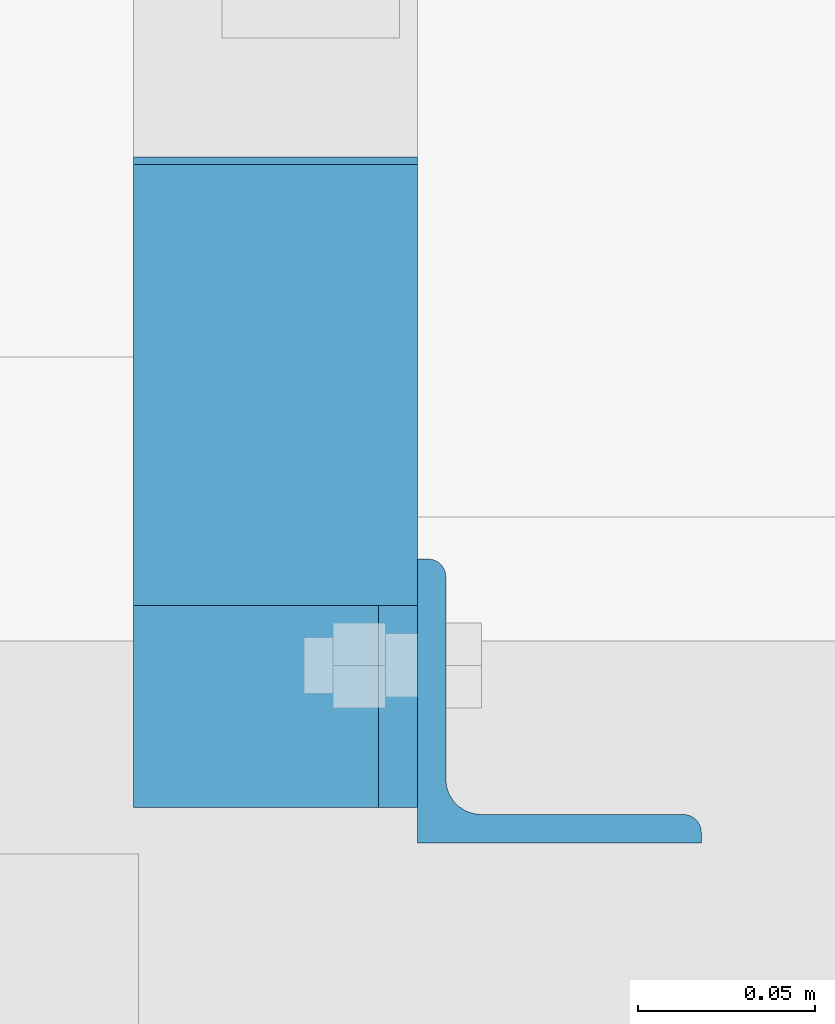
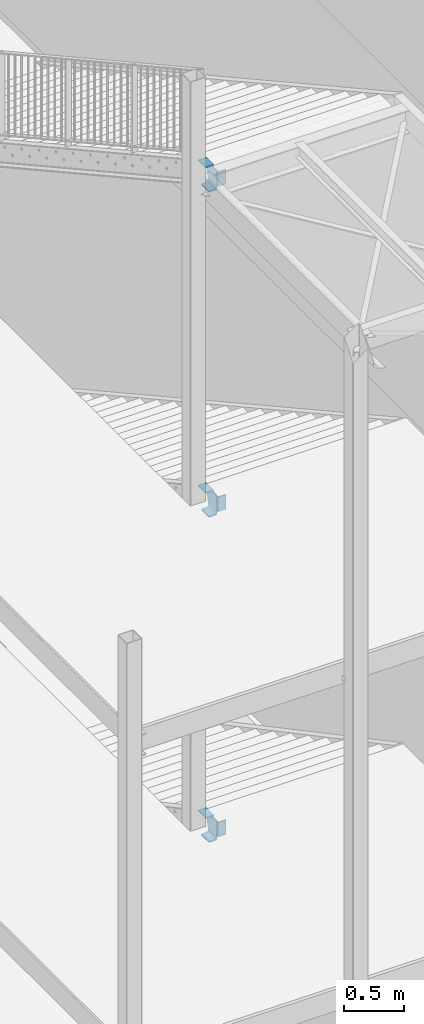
# One storey, part 38 of 78: 6 beams, 6 elements without a shape of their own.
"""IFC2X3 building model written with IfcOpenShell, lengths in millimetres."""

from ifc_helpers import new_model, si_unit, frame, origin_with_axes, origin_2d_with_axis, place, context, subcontext, project, spatial, polyline, l_section, u_section, outline, extrude, boolean, halfspace, material, type_object, element, aggregate, save


model = new_model("IFC2X3")

# Units and contexts
model_context = context("Model", 3, precision=1e-05, world=origin_with_axes())
body_context = subcontext(model_context, "Body", "Model", "MODEL_VIEW")
ifc_project = project(units=[si_unit("LENGTHUNIT", "METRE", prefix="MILLI"), si_unit("AREAUNIT", "SQUARE_METRE"), si_unit("VOLUMEUNIT", "CUBIC_METRE"), si_unit("MASSUNIT", "GRAM", prefix="KILO"), si_unit("TIMEUNIT", "SECOND"), si_unit("PLANEANGLEUNIT", "RADIAN"), si_unit("SOLIDANGLEUNIT", "STERADIAN"), si_unit("THERMODYNAMICTEMPERATUREUNIT", "DEGREE_CELSIUS"), si_unit("LUMINOUSINTENSITYUNIT", "LUMEN")], contexts=[model_context])

# Site, building, storey
site_placement = place(None, origin_with_axes())
site = spatial("IfcSite", under=ifc_project, at=site_placement, Name="Site", CompositionType="ELEMENT")
building_placement = place(site_placement, origin_with_axes())
building = spatial("IfcBuilding", under=site, at=building_placement, Name="Undefined", CompositionType="ELEMENT")
storey_placement = place(building_placement, origin_with_axes())
storey = spatial("IfcBuildingStorey", under=building, at=storey_placement, Name="Undefined", CompositionType="ELEMENT", Elevation=0.0)

# Assembly, beam
assembly_1_placement = place(storey_placement, origin_with_axes())
assembly_1 = element("IfcElementAssembly", 1, at=assembly_1_placement, inside=storey, AssemblyPlace="NOTDEFINED", PredefinedType="RIGID_FRAME")
ifc_material = material(Name="STEEL/S235JR")
beam_type_1 = type_object("IfcBeamType", Name="UPN220", PredefinedType="NOTDEFINED")
beam_1_placement = place(assembly_1_placement, frame((-33022.8600000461, 4102.28571431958, 156560.040000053), z_axis=(0.0, 0.0, 1.0), x_axis=(0.0, -1.0, 0.0)))
beam_1 = element("IfcBeam", 2, at=beam_1_placement, type_object=beam_type_1, material=ifc_material, Name="LIMON", ObjectType="UPN220", context=body_context, shape_type="CSG", body=[
    boolean("DIFFERENCE", boolean("DIFFERENCE", boolean("DIFFERENCE", extrude(u_section(Depth=220.0, FlangeWidth=80.0, WebThickness=9.0, FlangeThickness=12.5, FilletRadius=12.5, EdgeRadius=6.5, FlangeSlope=0.0798299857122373, at=origin_2d_with_axis()), frame((209.842037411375, 0.0, 0.0), z_axis=(-1.0, 0.0, 0.0), x_axis=(0.0, -1.0, 0.0)), (0.0, 0.0, 1.0), 210.13), extrude(outline(polyline([(0.0, 0.0), (66.9000000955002, 0.0), (66.9000000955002, 29.80000029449), (0.0, 29.80000029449), (0.0, 0.0)])), frame((191.185714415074, -49.9999999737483, 90.199999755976), z_axis=(0.0, 1.0, 0.0), x_axis=(-1.0, 0.0, 0.0)), (0.0, 0.0, 1.0), 100.0)), halfspace(frame((181.185714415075, 2.62516550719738e-08, 210.000000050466), z_axis=(1.0, 0.0, 0.0), x_axis=(0.0, 1.0, 0.0)), False)), halfspace(frame((-1.64160519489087e-06, -39.9999999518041, 109.99999989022), z_axis=(-0.968308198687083, 0.0, -0.249758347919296), x_axis=(0.0, -1.0, 0.0)), False)),
])
aggregate(assembly_1, [beam_1])

assembly_2_placement = place(storey_placement, origin_with_axes())
assembly_2 = element("IfcElementAssembly", 3, at=assembly_2_placement, inside=storey, AssemblyPlace="NOTDEFINED", PredefinedType="RIGID_FRAME")
beam_2_placement = place(assembly_2_placement, frame((-33022.8599999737, 4102.28571431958, 159860.040000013), z_axis=(0.0, 0.0, 1.0), x_axis=(0.0, -1.0, 0.0)))
beam_2 = element("IfcBeam", 4, at=beam_2_placement, type_object=beam_type_1, material=ifc_material, Name="LIMON", ObjectType="UPN220", context=body_context, shape_type="CSG", body=[
    boolean("DIFFERENCE", boolean("DIFFERENCE", boolean("DIFFERENCE", extrude(u_section(Depth=220.0, FlangeWidth=80.0, WebThickness=9.0, FlangeThickness=12.5, FilletRadius=12.5, EdgeRadius=6.5, FlangeSlope=0.0798299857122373, at=origin_2d_with_axis()), frame((209.842037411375, 0.0, 0.0), z_axis=(-1.0, 0.0, 0.0), x_axis=(0.0, -1.0, 0.0)), (0.0, 0.0, 1.0), 210.13), extrude(outline(polyline([(0.0, 0.0), (66.9000000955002, 0.0), (66.9000000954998, 29.800763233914), (0.0, 29.800763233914), (0.0, 0.0)])), frame((191.185714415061, -50.0000000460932, 90.1992368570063), z_axis=(0.0, 1.0, 0.0), x_axis=(-1.0, 0.0, 0.0)), (0.0, 0.0, 1.0), 100.0)), halfspace(frame((181.185714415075, 2.62516550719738e-08, 210.000000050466), z_axis=(1.0, 0.0, 0.0), x_axis=(0.0, 1.0, 0.0)), False)), halfspace(frame((-1.64160519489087e-06, -39.9999999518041, 109.99999989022), z_axis=(-0.968308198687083, 0.0, -0.249758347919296), x_axis=(0.0, -1.0, 0.0)), False)),
])
aggregate(assembly_2, [beam_2])

assembly_3_placement = place(storey_placement, origin_with_axes())
assembly_3 = element("IfcElementAssembly", 5, at=assembly_3_placement, inside=storey, AssemblyPlace="NOTDEFINED", PredefinedType="RIGID_FRAME")
beam_3_placement = place(assembly_3_placement, frame((-33022.8599999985, 4104.35782725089, 153260.040106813), z_axis=(0.0, 0.0, 1.0), x_axis=(0.0, -1.0, 0.0)))
beam_3 = element("IfcBeam", 6, at=beam_3_placement, type_object=beam_type_1, material=ifc_material, Name="LIMON", ObjectType="UPN220", context=body_context, shape_type="CSG", body=[
    boolean("DIFFERENCE", boolean("DIFFERENCE", boolean("DIFFERENCE", extrude(u_section(Depth=220.0, FlangeWidth=80.0, WebThickness=9.0, FlangeThickness=12.5, FilletRadius=12.5, EdgeRadius=6.5, FlangeSlope=0.0798299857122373, at=origin_2d_with_axis()), frame((210.985923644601, 0.0, 0.0), z_axis=(-1.0, 0.0, 0.0), x_axis=(0.0, -1.0, 0.0)), (0.0, 0.0, 1.0), 211.26), extrude(outline(polyline([(0.0, 0.0), (66.9000000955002, 0.0), (66.9000000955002, 29.8001073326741), (0.0, 29.8001074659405), (0.0, 0.0)])), frame((193.257827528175, -50.0000000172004, 90.1998925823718), z_axis=(0.0, 1.0, 0.0), x_axis=(-1.0, 0.0, 0.0)), (0.0, 0.0, 1.0), 100.0)), halfspace(frame((183.25782776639, -1.72003637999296e-08, 209.999999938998), z_axis=(1.0, 0.0, 0.0), x_axis=(0.0, 1.0, 0.0)), False)), halfspace(frame((-1.64160519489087e-06, -39.9999999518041, 109.99999989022), z_axis=(-0.97023880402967, 0.0, -0.242150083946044), x_axis=(0.0, -1.0, 0.0)), False)),
])
aggregate(assembly_3, [beam_3])

assembly_4_placement = place(storey_placement, origin_with_axes())
assembly_4 = element("IfcElementAssembly", 7, at=assembly_4_placement, inside=storey, AssemblyPlace="NOTDEFINED", PredefinedType="RIGID_FRAME")
beam_type_2 = type_object("IfcBeamType", Name="L80*8", PredefinedType="NOTDEFINED")
beam_4_placement = place(assembly_4_placement, frame((-32942.8600000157, 3951.0999986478, 153335.040107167), z_axis=(0.0, 1.0, 0.0), x_axis=(0.0, 0.0, -1.0)))
beam_4 = element("IfcBeam", 8, at=beam_4_placement, type_object=beam_type_2, material=ifc_material, Name="CORNIERE", ObjectType="L80*8", context=body_context, shape_type="SweptSolid", body=[
    extrude(l_section(Depth=80.0, Width=80.0, Thickness=8.0, FilletRadius=10.0, EdgeRadius=5.0, at=origin_2d_with_axis()), frame((150.0, 0.0, 0.0), z_axis=(-1.0, 0.0, 0.0), x_axis=(0.0, -1.0, 0.0)), (0.0, 0.0, 1.0), 150.0),
])
aggregate(assembly_4, [beam_4])

assembly_5_placement = place(storey_placement, origin_with_axes())
assembly_5 = element("IfcElementAssembly", 9, at=assembly_5_placement, inside=storey, AssemblyPlace="NOTDEFINED", PredefinedType="RIGID_FRAME")
beam_5_placement = place(assembly_5_placement, frame((-32942.8600000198, 3951.0999999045, 156635.040000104), z_axis=(0.0, 1.0, 0.0), x_axis=(0.0, 0.0, -1.0)))
beam_5 = element("IfcBeam", 10, at=beam_5_placement, type_object=beam_type_2, material=ifc_material, Name="CORNIERE", ObjectType="L80*8", context=body_context, shape_type="SweptSolid", body=[
    extrude(l_section(Depth=80.0, Width=80.0, Thickness=8.0, FilletRadius=10.0, EdgeRadius=5.0, at=origin_2d_with_axis()), frame((150.0, 0.0, 0.0), z_axis=(-1.0, 0.0, 0.0), x_axis=(0.0, -1.0, 0.0)), (0.0, 0.0, 1.0), 150.0),
])
aggregate(assembly_5, [beam_5])

assembly_6_placement = place(storey_placement, origin_with_axes())
assembly_6 = element("IfcElementAssembly", 11, at=assembly_6_placement, inside=storey, AssemblyPlace="NOTDEFINED", PredefinedType="RIGID_FRAME")
beam_6_placement = place(assembly_6_placement, frame((-32942.8600000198, 3951.09999990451, 159935.040000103), z_axis=(0.0, 1.0, 0.0), x_axis=(0.0, 0.0, -1.0)))
beam_6 = element("IfcBeam", 12, at=beam_6_placement, type_object=beam_type_2, material=ifc_material, Name="CORNIERE", ObjectType="L80*8", context=body_context, shape_type="SweptSolid", body=[
    extrude(l_section(Depth=80.0, Width=80.0, Thickness=8.0, FilletRadius=10.0, EdgeRadius=5.0, at=origin_2d_with_axis()), frame((150.0, 0.0, 0.0), z_axis=(-1.0, 0.0, 0.0), x_axis=(0.0, -1.0, 0.0)), (0.0, 0.0, 1.0), 150.0),
])
aggregate(assembly_6, [beam_6])

save(model, "model.ifc")
